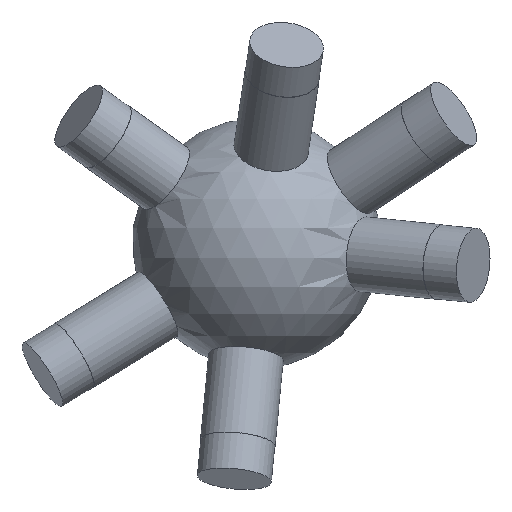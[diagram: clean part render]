
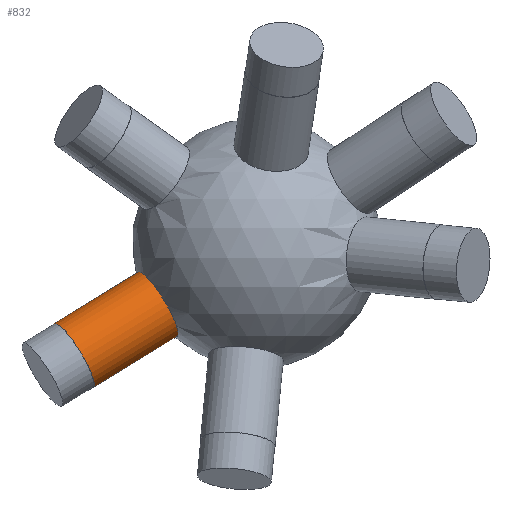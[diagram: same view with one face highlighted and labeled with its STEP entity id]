
A CAD part, left-side view. The second image highlights one B-rep face of the part: STEP entity #832.
In plain terms, the highlighted cylindrical face has radius 6 mm (diameter 12 mm), a full revolution.
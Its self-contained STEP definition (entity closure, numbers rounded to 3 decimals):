
#33 = SPHERICAL_SURFACE('',#34,20.);
#34 = AXIS2_PLACEMENT_3D('',#35,#36,#37);
#35 = CARTESIAN_POINT('',(0.,0.,0.));
#36 = DIRECTION('',(0.,0.,1.));
#37 = DIRECTION('',(1.,0.,-0.));
#307 = EDGE_CURVE('',#308,#308,#310,.T.);
#308 = VERTEX_POINT('',#309);
#309 = CARTESIAN_POINT('',(-3.865,19.069,
    -4.63));
#310 = SURFACE_CURVE('',#311,(#316,#385),.PCURVE_S1.);
#311 = CIRCLE('',#312,6.);
#312 = AXIS2_PLACEMENT_3D('',#313,#314,#315);
#313 = CARTESIAN_POINT('',(-3.865,15.938,
    -9.748));
#314 = DIRECTION('',(-0.203,0.835,-0.511));
#315 = DIRECTION('',(0.,0.522,0.853));
#316 = PCURVE('',#33,#317);
#317 = DEFINITIONAL_REPRESENTATION('',(#318),#384);
#318 = B_SPLINE_CURVE_WITH_KNOTS('',8,(#319,#320,#321,#322,#323,#324,
    #325,#326,#327,#328,#329,#330,#331,#332,#333,#334,#335,#336,#337,
    #338,#339,#340,#341,#342,#343,#344,#345,#346,#347,#348,#349,#350,
    #351,#352,#353,#354,#355,#356,#357,#358,#359,#360,#361,#362,#363,
    #364,#365,#366,#367,#368,#369,#370,#371,#372,#373,#374,#375,#376,
    #377,#378,#379,#380,#381,#382,#383),.UNSPECIFIED.,.F.,.F.,(9,7,7,7,7
    ,7,7,7,7,9),(0.,0.785,1.473,2.074,
    2.6,3.06,3.463,4.168,
    5.226,6.283),.UNSPECIFIED.);
#319 = CARTESIAN_POINT('',(1.771,-0.234));
#320 = CARTESIAN_POINT('',(1.741,-0.237));
#321 = CARTESIAN_POINT('',(1.711,-0.243));
#322 = CARTESIAN_POINT('',(1.682,-0.252));
#323 = CARTESIAN_POINT('',(1.653,-0.264));
#324 = CARTESIAN_POINT('',(1.626,-0.278));
#325 = CARTESIAN_POINT('',(1.601,-0.295));
#326 = CARTESIAN_POINT('',(1.577,-0.314));
#327 = CARTESIAN_POINT('',(1.536,-0.354));
#328 = CARTESIAN_POINT('',(1.519,-0.374));
#329 = CARTESIAN_POINT('',(1.503,-0.395));
#330 = CARTESIAN_POINT('',(1.49,-0.418));
#331 = CARTESIAN_POINT('',(1.478,-0.441));
#332 = CARTESIAN_POINT('',(1.468,-0.466));
#333 = CARTESIAN_POINT('',(1.461,-0.491));
#334 = CARTESIAN_POINT('',(1.453,-0.539));
#335 = CARTESIAN_POINT('',(1.451,-0.561));
#336 = CARTESIAN_POINT('',(1.451,-0.584));
#337 = CARTESIAN_POINT('',(1.453,-0.607));
#338 = CARTESIAN_POINT('',(1.458,-0.629));
#339 = CARTESIAN_POINT('',(1.465,-0.651));
#340 = CARTESIAN_POINT('',(1.475,-0.672));
#341 = CARTESIAN_POINT('',(1.498,-0.711));
#342 = CARTESIAN_POINT('',(1.511,-0.728));
#343 = CARTESIAN_POINT('',(1.526,-0.744));
#344 = CARTESIAN_POINT('',(1.543,-0.759));
#345 = CARTESIAN_POINT('',(1.563,-0.774));
#346 = CARTESIAN_POINT('',(1.584,-0.787));
#347 = CARTESIAN_POINT('',(1.607,-0.798));
#348 = CARTESIAN_POINT('',(1.653,-0.817));
#349 = CARTESIAN_POINT('',(1.676,-0.824));
#350 = CARTESIAN_POINT('',(1.7,-0.831));
#351 = CARTESIAN_POINT('',(1.724,-0.836));
#352 = CARTESIAN_POINT('',(1.75,-0.839));
#353 = CARTESIAN_POINT('',(1.776,-0.841));
#354 = CARTESIAN_POINT('',(1.802,-0.842));
#355 = CARTESIAN_POINT('',(1.85,-0.84));
#356 = CARTESIAN_POINT('',(1.873,-0.838));
#357 = CARTESIAN_POINT('',(1.895,-0.835));
#358 = CARTESIAN_POINT('',(1.917,-0.831));
#359 = CARTESIAN_POINT('',(1.938,-0.825));
#360 = CARTESIAN_POINT('',(1.958,-0.819));
#361 = CARTESIAN_POINT('',(1.978,-0.812));
#362 = CARTESIAN_POINT('',(2.028,-0.79));
#363 = CARTESIAN_POINT('',(2.057,-0.773));
#364 = CARTESIAN_POINT('',(2.083,-0.754));
#365 = CARTESIAN_POINT('',(2.105,-0.733));
#366 = CARTESIAN_POINT('',(2.123,-0.71));
#367 = CARTESIAN_POINT('',(2.137,-0.685));
#368 = CARTESIAN_POINT('',(2.148,-0.66));
#369 = CARTESIAN_POINT('',(2.167,-0.596));
#370 = CARTESIAN_POINT('',(2.17,-0.556));
#371 = CARTESIAN_POINT('',(2.167,-0.516));
#372 = CARTESIAN_POINT('',(2.157,-0.476));
#373 = CARTESIAN_POINT('',(2.141,-0.438));
#374 = CARTESIAN_POINT('',(2.121,-0.402));
#375 = CARTESIAN_POINT('',(2.096,-0.37));
#376 = CARTESIAN_POINT('',(2.039,-0.312));
#377 = CARTESIAN_POINT('',(2.007,-0.286));
#378 = CARTESIAN_POINT('',(1.971,-0.265));
#379 = CARTESIAN_POINT('',(1.933,-0.248));
#380 = CARTESIAN_POINT('',(1.893,-0.237));
#381 = CARTESIAN_POINT('',(1.852,-0.23));
#382 = CARTESIAN_POINT('',(1.811,-0.229));
#383 = CARTESIAN_POINT('',(1.771,-0.234));
#384 = ( GEOMETRIC_REPRESENTATION_CONTEXT(2) 
PARAMETRIC_REPRESENTATION_CONTEXT() REPRESENTATION_CONTEXT('2D SPACE',''
  ) );
#385 = PCURVE('',#386,#391);
#386 = CYLINDRICAL_SURFACE('',#387,6.);
#387 = AXIS2_PLACEMENT_3D('',#388,#389,#390);
#388 = CARTESIAN_POINT('',(0.,0.,0.));
#389 = DIRECTION('',(-0.203,0.835,-0.511));
#390 = DIRECTION('',(0.,0.522,0.853));
#391 = DEFINITIONAL_REPRESENTATION('',(#392),#396);
#392 = LINE('',#393,#394);
#393 = CARTESIAN_POINT('',(0.,19.079));
#394 = VECTOR('',#395,1.);
#395 = DIRECTION('',(1.,0.));
#396 = ( GEOMETRIC_REPRESENTATION_CONTEXT(2) 
PARAMETRIC_REPRESENTATION_CONTEXT() REPRESENTATION_CONTEXT('2D SPACE',''
  ) );
#832 = ADVANCED_FACE('',(#833),#386,.T.);
#833 = FACE_BOUND('',#834,.T.);
#834 = EDGE_LOOP('',(#835,#858,#885,#886));
#835 = ORIENTED_EDGE('',*,*,#836,.T.);
#836 = EDGE_CURVE('',#308,#837,#839,.T.);
#837 = VERTEX_POINT('',#838);
#838 = CARTESIAN_POINT('',(-7.123,32.503,
    -12.846));
#839 = SEAM_CURVE('',#840,(#844,#851),.PCURVE_S1.);
#840 = LINE('',#841,#842);
#841 = CARTESIAN_POINT('',(0.,3.131,
    5.119));
#842 = VECTOR('',#843,1.);
#843 = DIRECTION('',(-0.203,0.835,-0.511));
#844 = PCURVE('',#386,#845);
#845 = DEFINITIONAL_REPRESENTATION('',(#846),#850);
#846 = LINE('',#847,#848);
#847 = CARTESIAN_POINT('',(6.283,-0.));
#848 = VECTOR('',#849,1.);
#849 = DIRECTION('',(0.,1.));
#850 = ( GEOMETRIC_REPRESENTATION_CONTEXT(2) 
PARAMETRIC_REPRESENTATION_CONTEXT() REPRESENTATION_CONTEXT('2D SPACE',''
  ) );
#851 = PCURVE('',#386,#852);
#852 = DEFINITIONAL_REPRESENTATION('',(#853),#857);
#853 = LINE('',#854,#855);
#854 = CARTESIAN_POINT('',(0.,-0.));
#855 = VECTOR('',#856,1.);
#856 = DIRECTION('',(0.,1.));
#857 = ( GEOMETRIC_REPRESENTATION_CONTEXT(2) 
PARAMETRIC_REPRESENTATION_CONTEXT() REPRESENTATION_CONTEXT('2D SPACE',''
  ) );
#858 = ORIENTED_EDGE('',*,*,#859,.F.);
#859 = EDGE_CURVE('',#837,#837,#860,.T.);
#860 = SURFACE_CURVE('',#861,(#866,#873),.PCURVE_S1.);
#861 = CIRCLE('',#862,6.);
#862 = AXIS2_PLACEMENT_3D('',#863,#864,#865);
#863 = CARTESIAN_POINT('',(-7.123,29.372,
    -17.964));
#864 = DIRECTION('',(-0.203,0.835,-0.511));
#865 = DIRECTION('',(0.,0.522,0.853));
#866 = PCURVE('',#386,#867);
#867 = DEFINITIONAL_REPRESENTATION('',(#868),#872);
#868 = LINE('',#869,#870);
#869 = CARTESIAN_POINT('',(0.,35.159));
#870 = VECTOR('',#871,1.);
#871 = DIRECTION('',(1.,0.));
#872 = ( GEOMETRIC_REPRESENTATION_CONTEXT(2) 
PARAMETRIC_REPRESENTATION_CONTEXT() REPRESENTATION_CONTEXT('2D SPACE',''
  ) );
#873 = PCURVE('',#874,#879);
#874 = PLANE('',#875);
#875 = AXIS2_PLACEMENT_3D('',#876,#877,#878);
#876 = CARTESIAN_POINT('',(-7.123,29.372,
    -17.964));
#877 = DIRECTION('',(-0.203,0.835,-0.511));
#878 = DIRECTION('',(0.,0.522,0.853));
#879 = DEFINITIONAL_REPRESENTATION('',(#880),#884);
#880 = CIRCLE('',#881,6.);
#881 = AXIS2_PLACEMENT_2D('',#882,#883);
#882 = CARTESIAN_POINT('',(0.,0.));
#883 = DIRECTION('',(1.,0.));
#884 = ( GEOMETRIC_REPRESENTATION_CONTEXT(2) 
PARAMETRIC_REPRESENTATION_CONTEXT() REPRESENTATION_CONTEXT('2D SPACE',''
  ) );
#885 = ORIENTED_EDGE('',*,*,#836,.F.);
#886 = ORIENTED_EDGE('',*,*,#307,.T.);
